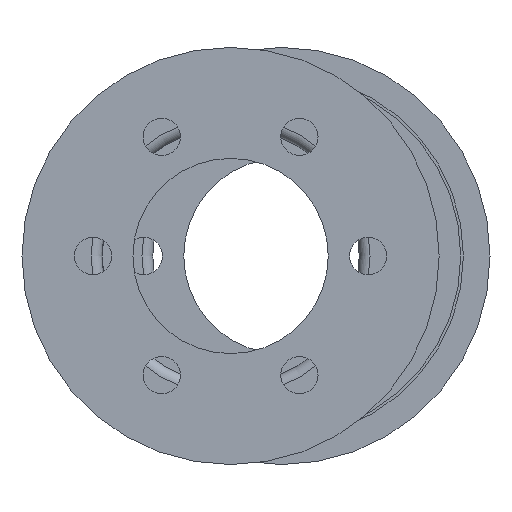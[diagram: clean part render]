
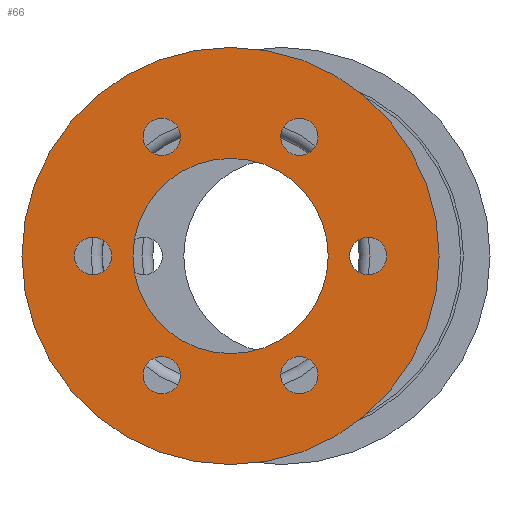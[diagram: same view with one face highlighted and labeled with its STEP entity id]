
A CAD part, left-side view. The second image highlights one B-rep face of the part: STEP entity #66.
In plain terms, the highlighted planar face has unit normal (-1, 0, 0).
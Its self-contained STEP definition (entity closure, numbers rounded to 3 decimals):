
#66 = ADVANCED_FACE( 'NONE', ( #131, #132, #133, #134, #135, #136, #137, #138 ), #139, .F. );
#131 = FACE_OUTER_BOUND( '', #201, .T. );
#132 = FACE_BOUND( '', #202, .T. );
#133 = FACE_BOUND( '', #203, .T. );
#134 = FACE_BOUND( '', #204, .T. );
#135 = FACE_BOUND( '', #205, .T. );
#136 = FACE_BOUND( '', #206, .T. );
#137 = FACE_BOUND( '', #207, .T. );
#138 = FACE_BOUND( '', #208, .T. );
#139 = PLANE( '', #209 );
#201 = EDGE_LOOP( '', ( #329 ) );
#202 = EDGE_LOOP( '', ( #330 ) );
#203 = EDGE_LOOP( '', ( #331 ) );
#204 = EDGE_LOOP( '', ( #332 ) );
#205 = EDGE_LOOP( '', ( #333 ) );
#206 = EDGE_LOOP( '', ( #334 ) );
#207 = EDGE_LOOP( '', ( #335 ) );
#208 = EDGE_LOOP( '', ( #336 ) );
#209 = AXIS2_PLACEMENT_3D( '', #337, #338, #339 );
#329 = ORIENTED_EDGE( '', *, *, #530, .T. );
#330 = ORIENTED_EDGE( '', *, *, #531, .F. );
#331 = ORIENTED_EDGE( '', *, *, #521, .F. );
#332 = ORIENTED_EDGE( '', *, *, #512, .F. );
#333 = ORIENTED_EDGE( '', *, *, #528, .F. );
#334 = ORIENTED_EDGE( '', *, *, #518, .F. );
#335 = ORIENTED_EDGE( '', *, *, #509, .F. );
#336 = ORIENTED_EDGE( '', *, *, #515, .F. );
#337 = CARTESIAN_POINT( '', ( 0., 11., 0. ) );
#338 = DIRECTION( '', ( 1., 0., 0. ) );
#339 = DIRECTION( '', ( 0., 1., 0. ) );
#509 = EDGE_CURVE( 'NONE', #691, #691, #692, .T. );
#512 = EDGE_CURVE( 'NONE', #696, #696, #697, .T. );
#515 = EDGE_CURVE( 'NONE', #701, #701, #702, .T. );
#518 = EDGE_CURVE( 'NONE', #706, #706, #707, .T. );
#521 = EDGE_CURVE( 'NONE', #711, #711, #712, .T. );
#528 = EDGE_CURVE( 'NONE', #723, #723, #724, .T. );
#530 = EDGE_CURVE( 'NONE', #726, #726, #727, .T. );
#531 = EDGE_CURVE( 'NONE', #728, #728, #729, .T. );
#691 = VERTEX_POINT( '', #993 );
#692 = CIRCLE( '', #994, 2.1 );
#696 = VERTEX_POINT( '', #998 );
#697 = CIRCLE( '', #999, 2.1 );
#701 = VERTEX_POINT( '', #1003 );
#702 = CIRCLE( '', #1004, 2.1 );
#706 = VERTEX_POINT( '', #1008 );
#707 = CIRCLE( '', #1009, 11. );
#711 = VERTEX_POINT( '', #1013 );
#712 = CIRCLE( '', #1014, 2.1 );
#723 = VERTEX_POINT( '', #1025 );
#724 = CIRCLE( '', #1026, 2.1 );
#726 = VERTEX_POINT( '', #1028 );
#727 = CIRCLE( '', #1029, 23.5 );
#728 = VERTEX_POINT( '', #1030 );
#729 = CIRCLE( '', #1031, 2.1 );
#993 = CARTESIAN_POINT( '', ( 0., -15.5, 2.1 ) );
#994 = AXIS2_PLACEMENT_3D( '', #1086, #1087, #1088 );
#998 = CARTESIAN_POINT( '', ( 0., 7.75, -11.323 ) );
#999 = AXIS2_PLACEMENT_3D( '', #1092, #1093, #1094 );
#1003 = CARTESIAN_POINT( '', ( 0., 7.75, 15.523 ) );
#1004 = AXIS2_PLACEMENT_3D( '', #1098, #1099, #1100 );
#1008 = CARTESIAN_POINT( '', ( 0., 0., 11. ) );
#1009 = AXIS2_PLACEMENT_3D( '', #1104, #1105, #1106 );
#1013 = CARTESIAN_POINT( '', ( 0., -7.75, -11.323 ) );
#1014 = AXIS2_PLACEMENT_3D( '', #1110, #1111, #1112 );
#1025 = CARTESIAN_POINT( '', ( 0., 15.5, 2.1 ) );
#1026 = AXIS2_PLACEMENT_3D( '', #1125, #1126, #1127 );
#1028 = CARTESIAN_POINT( '', ( 0., 0., 23.5 ) );
#1029 = AXIS2_PLACEMENT_3D( '', #1128, #1129, #1130 );
#1030 = CARTESIAN_POINT( '', ( 0., -7.75, 15.523 ) );
#1031 = AXIS2_PLACEMENT_3D( '', #1131, #1132, #1133 );
#1086 = CARTESIAN_POINT( '', ( 0., -15.5, 0. ) );
#1087 = DIRECTION( '', ( -1., 0., 0. ) );
#1088 = DIRECTION( '', ( 0., 0., 1. ) );
#1092 = CARTESIAN_POINT( '', ( 0., 7.75, -13.423 ) );
#1093 = DIRECTION( '', ( -1., 0., 0. ) );
#1094 = DIRECTION( '', ( 0., 0., 1. ) );
#1098 = CARTESIAN_POINT( '', ( 0., 7.75, 13.423 ) );
#1099 = DIRECTION( '', ( -1., 0., 0. ) );
#1100 = DIRECTION( '', ( 0., 0., 1. ) );
#1104 = CARTESIAN_POINT( '', ( 0., 0., 0. ) );
#1105 = DIRECTION( '', ( -1., 0., 0. ) );
#1106 = DIRECTION( '', ( 0., 0., 1. ) );
#1110 = CARTESIAN_POINT( '', ( 0., -7.75, -13.423 ) );
#1111 = DIRECTION( '', ( -1., 0., 0. ) );
#1112 = DIRECTION( '', ( 0., 0., 1. ) );
#1125 = CARTESIAN_POINT( '', ( 0., 15.5, 0. ) );
#1126 = DIRECTION( '', ( -1., 0., 0. ) );
#1127 = DIRECTION( '', ( 0., 0., 1. ) );
#1128 = CARTESIAN_POINT( '', ( 0., 0., 0. ) );
#1129 = DIRECTION( '', ( -1., 0., 0. ) );
#1130 = DIRECTION( '', ( 0., 0., 1. ) );
#1131 = CARTESIAN_POINT( '', ( 0., -7.75, 13.423 ) );
#1132 = DIRECTION( '', ( -1., 0., 0. ) );
#1133 = DIRECTION( '', ( 0., 0., 1. ) );
